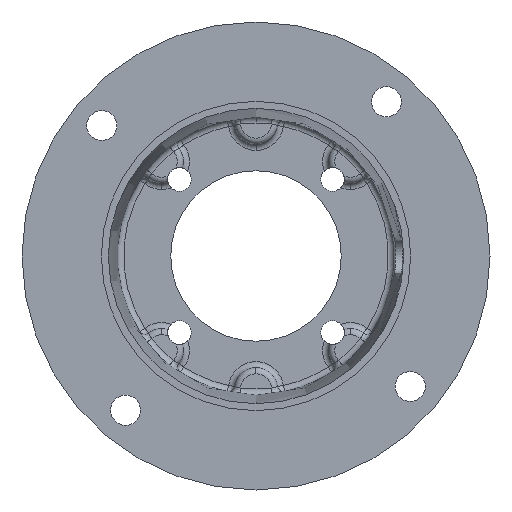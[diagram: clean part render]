
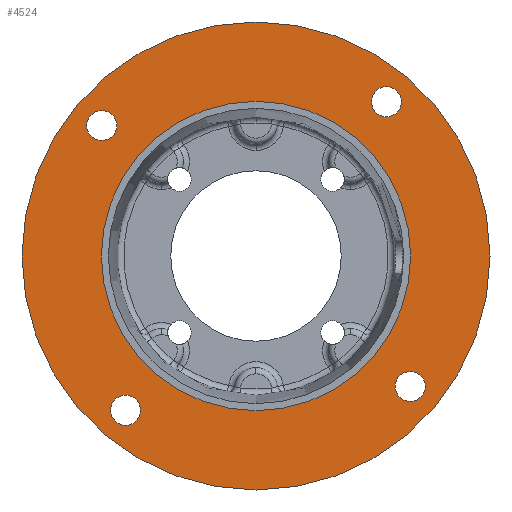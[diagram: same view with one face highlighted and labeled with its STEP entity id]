
A CAD part, front view. The second image highlights one B-rep face of the part: STEP entity #4524.
In plain terms, the highlighted planar face has unit normal (0, -1, 0).
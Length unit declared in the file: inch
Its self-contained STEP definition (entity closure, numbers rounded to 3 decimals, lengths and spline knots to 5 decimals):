
#230 = ORIENTED_EDGE ( 'NONE', *, *, #7030, .F. ) ;
#338 = DIRECTION ( 'NONE',  ( 0., 0., -1. ) ) ;
#360 = EDGE_LOOP ( 'NONE', ( #7645, #3496 ) ) ;
#364 = AXIS2_PLACEMENT_3D ( 'NONE', #7142, #3380, #7763 ) ;
#384 = DIRECTION ( 'NONE',  ( 0., 0., -1. ) ) ;
#418 = AXIS2_PLACEMENT_3D ( 'NONE', #552, #4932, #1184 ) ;
#523 = CARTESIAN_POINT ( 'NONE',  ( 1.89861, 0.103, 2.24475 ) ) ;
#526 = FACE_BOUND ( 'NONE', #5740, .T. ) ;
#552 = CARTESIAN_POINT ( 'NONE',  ( 0., 0.103, 0. ) ) ;
#747 = VERTEX_POINT ( 'NONE', #8115 ) ;
#1033 = VERTEX_POINT ( 'NONE', #5742 ) ;
#1042 = AXIS2_PLACEMENT_3D ( 'NONE', #1966, #6367, #2596 ) ;
#1067 = DIRECTION ( 'NONE',  ( 0., -1., 0. ) ) ;
#1151 = DIRECTION ( 'NONE',  ( 0., 0., -1. ) ) ;
#1170 = EDGE_CURVE ( 'NONE', #3664, #2259, #4927, .T. ) ;
#1184 = DIRECTION ( 'NONE',  ( 0., 0., -1. ) ) ;
#1196 = AXIS2_PLACEMENT_3D ( 'NONE', #523, #4898, #1151 ) ;
#1219 = DIRECTION ( 'NONE',  ( 0., -1., 0. ) ) ;
#1328 = ORIENTED_EDGE ( 'NONE', *, *, #3791, .F. ) ;
#1343 = VERTEX_POINT ( 'NONE', #3181 ) ;
#1419 = AXIS2_PLACEMENT_3D ( 'NONE', #3229, #7608, #3844 ) ;
#1512 = ORIENTED_EDGE ( 'NONE', *, *, #7219, .F. ) ;
#1699 = CIRCLE ( 'NONE', #418, 3.405 ) ;
#1749 = EDGE_CURVE ( 'NONE', #2259, #3664, #7393, .T. ) ;
#1842 = VERTEX_POINT ( 'NONE', #5822 ) ;
#1966 = CARTESIAN_POINT ( 'NONE',  ( -1.89861, 0.103, -2.24475 ) ) ;
#2004 = AXIS2_PLACEMENT_3D ( 'NONE', #2482, #6879, #3117 ) ;
#2055 = AXIS2_PLACEMENT_3D ( 'NONE', #3078, #7456, #3687 ) ;
#2094 = CARTESIAN_POINT ( 'NONE',  ( 2.24475, 0.103, -1.89861 ) ) ;
#2152 = VERTEX_POINT ( 'NONE', #7441 ) ;
#2207 = VERTEX_POINT ( 'NONE', #8118 ) ;
#2259 = VERTEX_POINT ( 'NONE', #2962 ) ;
#2476 = AXIS2_PLACEMENT_3D ( 'NONE', #6996, #3226, #7604 ) ;
#2482 = CARTESIAN_POINT ( 'NONE',  ( 0., 0.103, 0. ) ) ;
#2491 = ORIENTED_EDGE ( 'NONE', *, *, #1749, .F. ) ;
#2566 = ORIENTED_EDGE ( 'NONE', *, *, #3777, .F. ) ;
#2596 = DIRECTION ( 'NONE',  ( 0., 0., -1. ) ) ;
#2600 = EDGE_LOOP ( 'NONE', ( #5951, #1512 ) ) ;
#2727 = DIRECTION ( 'NONE',  ( 0., 0., -1. ) ) ;
#2885 = ORIENTED_EDGE ( 'NONE', *, *, #1170, .F. ) ;
#2962 = CARTESIAN_POINT ( 'NONE',  ( -1.89861, 0.103, -2.4635 ) ) ;
#3077 = CARTESIAN_POINT ( 'NONE',  ( 1.89861, 0.103, 2.4635 ) ) ;
#3078 = CARTESIAN_POINT ( 'NONE',  ( 1.89861, 0.103, 2.24475 ) ) ;
#3091 = PLANE ( 'NONE',  #2004 ) ;
#3117 = DIRECTION ( 'NONE',  ( 0., 0., -1. ) ) ;
#3150 = CIRCLE ( 'NONE', #2476, 2.2505 ) ;
#3181 = CARTESIAN_POINT ( 'NONE',  ( -2.24475, 0.103, 2.11736 ) ) ;
#3226 = DIRECTION ( 'NONE',  ( 0., -1., 0. ) ) ;
#3229 = CARTESIAN_POINT ( 'NONE',  ( -1.89861, 0.103, -2.24475 ) ) ;
#3324 = CIRCLE ( 'NONE', #6951, 0.21875 ) ;
#3366 = VERTEX_POINT ( 'NONE', #4519 ) ;
#3376 = AXIS2_PLACEMENT_3D ( 'NONE', #7891, #4115, #384 ) ;
#3380 = DIRECTION ( 'NONE',  ( 0., -1., 0. ) ) ;
#3444 = CIRCLE ( 'NONE', #3627, 0.21875 ) ;
#3496 = ORIENTED_EDGE ( 'NONE', *, *, #7939, .F. ) ;
#3627 = AXIS2_PLACEMENT_3D ( 'NONE', #2094, #6491, #2727 ) ;
#3655 = FACE_OUTER_BOUND ( 'NONE', #7565, .T. ) ;
#3664 = VERTEX_POINT ( 'NONE', #5431 ) ;
#3687 = DIRECTION ( 'NONE',  ( 0., 0., -1. ) ) ;
#3732 = CIRCLE ( 'NONE', #3937, 0.21875 ) ;
#3739 = ORIENTED_EDGE ( 'NONE', *, *, #7515, .F. ) ;
#3777 = EDGE_CURVE ( 'NONE', #6200, #747, #4174, .T. ) ;
#3791 = EDGE_CURVE ( 'NONE', #747, #6200, #7144, .T. ) ;
#3844 = DIRECTION ( 'NONE',  ( 0., 0., -1. ) ) ;
#3848 = FACE_BOUND ( 'NONE', #2600, .T. ) ;
#3937 = AXIS2_PLACEMENT_3D ( 'NONE', #7847, #4073, #338 ) ;
#4048 = CIRCLE ( 'NONE', #8037, 2.2505 ) ;
#4073 = DIRECTION ( 'NONE',  ( 0., -1., 0. ) ) ;
#4115 = DIRECTION ( 'NONE',  ( 0., -1., 0. ) ) ;
#4174 = CIRCLE ( 'NONE', #1196, 0.21875 ) ;
#4510 = EDGE_CURVE ( 'NONE', #2207, #5765, #4048, .T. ) ;
#4519 = CARTESIAN_POINT ( 'NONE',  ( 2.24475, 0.103, -1.67986 ) ) ;
#4524 = ADVANCED_FACE ( 'NONE', ( #7015, #3848, #5534, #526, #5330, #3655 ), #3091, .T. ) ;
#4805 = CARTESIAN_POINT ( 'NONE',  ( -2.24475, 0.103, 1.89861 ) ) ;
#4898 = DIRECTION ( 'NONE',  ( 0., -1., 0. ) ) ;
#4927 = CIRCLE ( 'NONE', #1042, 0.21875 ) ;
#4932 = DIRECTION ( 'NONE',  ( 0., -1., 0. ) ) ;
#4962 = CARTESIAN_POINT ( 'NONE',  ( 0., 0.103, 0. ) ) ;
#4983 = EDGE_CURVE ( 'NONE', #2152, #1033, #1699, .T. ) ;
#5330 = FACE_BOUND ( 'NONE', #360, .T. ) ;
#5431 = CARTESIAN_POINT ( 'NONE',  ( -1.89861, 0.103, -2.026 ) ) ;
#5446 = DIRECTION ( 'NONE',  ( 0., 0., -1. ) ) ;
#5534 = FACE_BOUND ( 'NONE', #6663, .T. ) ;
#5602 = DIRECTION ( 'NONE',  ( 0., 0., -1. ) ) ;
#5611 = ORIENTED_EDGE ( 'NONE', *, *, #4983, .T. ) ;
#5740 = EDGE_LOOP ( 'NONE', ( #2491, #2885 ) ) ;
#5742 = CARTESIAN_POINT ( 'NONE',  ( 0., 0.103, -3.405 ) ) ;
#5765 = VERTEX_POINT ( 'NONE', #6274 ) ;
#5822 = CARTESIAN_POINT ( 'NONE',  ( -2.24475, 0.103, 1.67986 ) ) ;
#5917 = EDGE_CURVE ( 'NONE', #1033, #2152, #6970, .T. ) ;
#5951 = ORIENTED_EDGE ( 'NONE', *, *, #6439, .F. ) ;
#6200 = VERTEX_POINT ( 'NONE', #3077 ) ;
#6274 = CARTESIAN_POINT ( 'NONE',  ( 0., 0.103, 2.2505 ) ) ;
#6367 = DIRECTION ( 'NONE',  ( 0., -1., 0. ) ) ;
#6439 = EDGE_CURVE ( 'NONE', #1842, #1343, #3324, .T. ) ;
#6491 = DIRECTION ( 'NONE',  ( 0., -1., 0. ) ) ;
#6663 = EDGE_LOOP ( 'NONE', ( #3739, #230 ) ) ;
#6879 = DIRECTION ( 'NONE',  ( 0., -1., 0. ) ) ;
#6951 = AXIS2_PLACEMENT_3D ( 'NONE', #4805, #1067, #5446 ) ;
#6970 = CIRCLE ( 'NONE', #364, 3.405 ) ;
#6996 = CARTESIAN_POINT ( 'NONE',  ( 0., 0.103, 0. ) ) ;
#7015 = FACE_BOUND ( 'NONE', #7024, .T. ) ;
#7024 = EDGE_LOOP ( 'NONE', ( #1328, #2566 ) ) ;
#7030 = EDGE_CURVE ( 'NONE', #3366, #7474, #3732, .T. ) ;
#7142 = CARTESIAN_POINT ( 'NONE',  ( 0., 0.103, 0. ) ) ;
#7144 = CIRCLE ( 'NONE', #2055, 0.21875 ) ;
#7197 = ORIENTED_EDGE ( 'NONE', *, *, #5917, .T. ) ;
#7219 = EDGE_CURVE ( 'NONE', #1343, #1842, #7766, .T. ) ;
#7393 = CIRCLE ( 'NONE', #1419, 0.21875 ) ;
#7441 = CARTESIAN_POINT ( 'NONE',  ( 0., 0.103, 3.405 ) ) ;
#7456 = DIRECTION ( 'NONE',  ( 0., -1., 0. ) ) ;
#7474 = VERTEX_POINT ( 'NONE', #7560 ) ;
#7515 = EDGE_CURVE ( 'NONE', #7474, #3366, #3444, .T. ) ;
#7560 = CARTESIAN_POINT ( 'NONE',  ( 2.24475, 0.103, -2.11736 ) ) ;
#7565 = EDGE_LOOP ( 'NONE', ( #7197, #5611 ) ) ;
#7604 = DIRECTION ( 'NONE',  ( 0., 0., -1. ) ) ;
#7608 = DIRECTION ( 'NONE',  ( 0., -1., 0. ) ) ;
#7645 = ORIENTED_EDGE ( 'NONE', *, *, #4510, .F. ) ;
#7763 = DIRECTION ( 'NONE',  ( 0., 0., -1. ) ) ;
#7766 = CIRCLE ( 'NONE', #3376, 0.21875 ) ;
#7847 = CARTESIAN_POINT ( 'NONE',  ( 2.24475, 0.103, -1.89861 ) ) ;
#7891 = CARTESIAN_POINT ( 'NONE',  ( -2.24475, 0.103, 1.89861 ) ) ;
#7939 = EDGE_CURVE ( 'NONE', #5765, #2207, #3150, .T. ) ;
#8037 = AXIS2_PLACEMENT_3D ( 'NONE', #4962, #1219, #5602 ) ;
#8115 = CARTESIAN_POINT ( 'NONE',  ( 1.89861, 0.103, 2.026 ) ) ;
#8118 = CARTESIAN_POINT ( 'NONE',  ( 0., 0.103, -2.2505 ) ) ;
